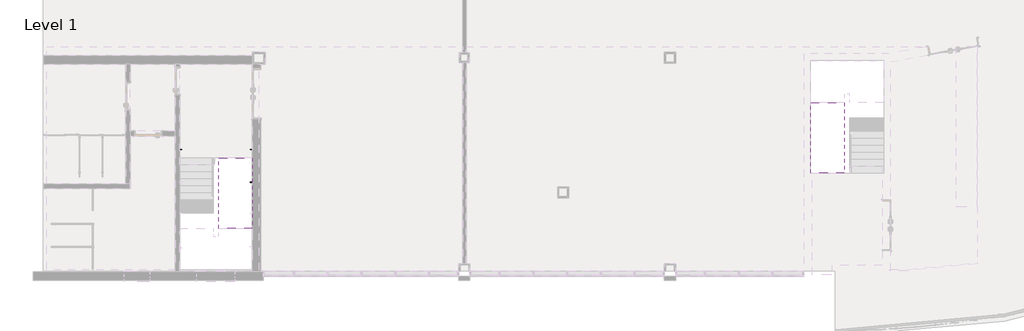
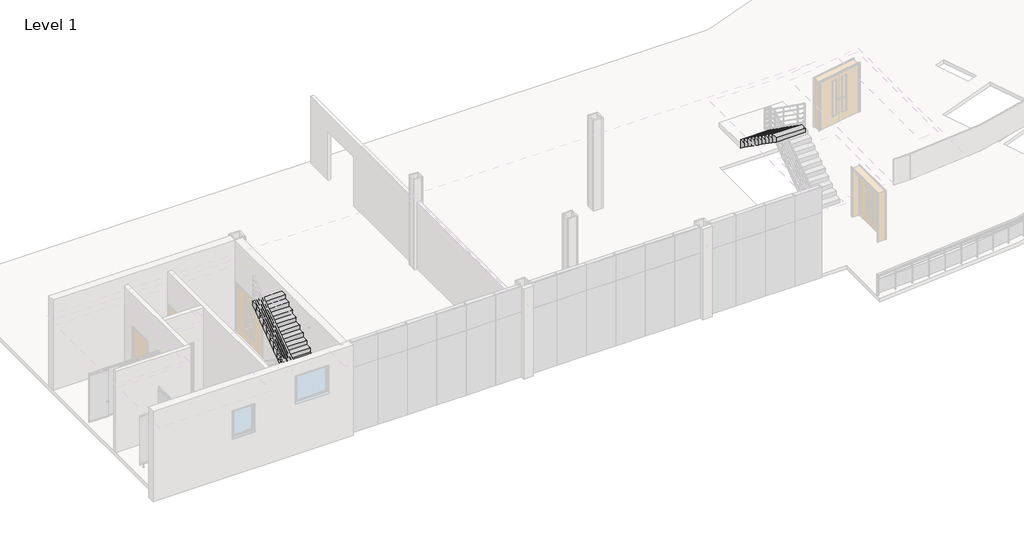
# One storey, part 10 of 12: 3 proxies, 2 stair flights.
"""IFC4 building model written with IfcOpenShell, lengths in millimetres."""

from ifc_helpers import new_model, si_unit, frame, origin, place, context, project, spatial, polyline, outline, extrude, faceted_brep, transform, mapped, element, save
from components import support_metal_circular_support_metal_circular_016e83f0

model = new_model("IFC4")

# Units and contexts
model_context = context("Model", 3, world=origin())
ifc_project = project(units=[si_unit("LENGTHUNIT", "METRE", prefix="MILLI")], contexts=[model_context])

# Site, building, storey
site = spatial("IfcSite", under=ifc_project)
building = spatial("IfcBuilding", under=site)
storey = spatial("IfcBuildingStorey", under=building, Name="Level 1", Elevation=3900.0)

# Proxies
placement = place(None, origin())
support_metal_circular_support_metal_circular_shape = support_metal_circular_support_metal_circular_016e83f0(model_context)
element("IfcBuildingElementProxy", 1, Name="Support - Metal - Circular : Support - Metal - Circular", ObjectType="Support - Metal - Circular : Support - Metal - Circular", at=placement, inside=storey, context=model_context, shape_type="MappedRepresentation", body=[
    mapped(support_metal_circular_support_metal_circular_shape, transform((5322.6000025, 4600.0, 4959.3919555), x_axis=(0.0, 1.0, 0.0), y_axis=(-1.0, 0.0, 0.0), z_axis=(0.0, 0.0, 1.0))),
])
element("IfcBuildingElementProxy", 2, Name="Support - Metal - Circular : Support - Metal - Circular", ObjectType="Support - Metal - Circular : Support - Metal - Circular", at=placement, inside=storey, context=model_context, shape_type="MappedRepresentation", body=[
    mapped(support_metal_circular_support_metal_circular_shape, transform((7761.8000023, 3437.7155261, 4170.6811467), x_axis=(0.0, -1.0, 0.0), y_axis=(1.0, 0.0, 0.0), z_axis=(0.0, 0.0, 1.0))),
])
element("IfcBuildingElementProxy", 3, Name="Support - Metal - Circular : Support - Metal - Circular", ObjectType="Support - Metal - Circular : Support - Metal - Circular", at=placement, inside=storey, context=model_context, shape_type="MappedRepresentation", body=[
    mapped(support_metal_circular_support_metal_circular_shape, transform((7761.8000023, 4600.0, 4782.1192282), x_axis=(0.0, -1.0, 0.0), y_axis=(1.0, 0.0, 0.0), z_axis=(0.0, 0.0, 1.0))),
])

# Stair flights
element("IfcStairFlight", 4, ObjectType="1mm_Tread-150mm_Depth", at=placement, inside=storey, context=model_context, shape_type="SolidModel", body=[
    faceted_brep([(6637.2000026, 2050.0, 6026.2727273), (6637.2000026, 1800.0, 6026.2727273), (7837.2000024, 1800.0, 6026.2727273), (7837.2000024, 2050.0, 6026.2727273), (6637.2000026, 2050.0, 5842.3890055), (6637.2000026, 1800.0, 5665.1162782), (6637.2000026, 1800.0, 5849.0), (7837.2000024, 1800.0, 5665.1162782), (7837.2000024, 1800.0, 5849.0), (7837.2000024, 2050.0, 5842.3890055), (6637.2000026, 2300.0, 6203.5454545), (6637.2000026, 2050.0, 6203.5454545), (7837.2000024, 2050.0, 6203.5454545), (7837.2000024, 2300.0, 6203.5454545), (6637.2000026, 2300.0, 6019.6617328), (7837.2000024, 2300.0, 6019.6617328), (6637.2000026, 2550.0, 6380.8181818), (6637.2000026, 2300.0, 6380.8181818), (7837.2000024, 2300.0, 6380.8181818), (7837.2000024, 2550.0, 6380.8181818), (6637.2000026, 2550.0, 6196.93446), (7837.2000024, 2550.0, 6196.93446), (6637.2000026, 2800.0, 6558.0909091), (6637.2000026, 2550.0, 6558.0909091), (7837.2000024, 2550.0, 6558.0909091), (7837.2000024, 2800.0, 6558.0909091), (6637.2000026, 2800.0, 6374.2071873), (7837.2000024, 2800.0, 6374.2071873), (6637.2000026, 3050.0, 6735.3636364), (6637.2000026, 2800.0, 6735.3636364), (7837.2000024, 2800.0, 6735.3636364), (7837.2000024, 3050.0, 6735.3636364), (6637.2000026, 3050.0, 6551.4799146), (7837.2000024, 3050.0, 6551.4799146), (6637.2000026, 3300.0, 6912.6363636), (6637.2000026, 3050.0, 6912.6363636), (7837.2000024, 3050.0, 6912.6363636), (7837.2000024, 3300.0, 6912.6363636), (6637.2000026, 3300.0, 6728.7526418), (7837.2000024, 3300.0, 6728.7526418), (6637.2000026, 3550.0, 7089.9090909), (6637.2000026, 3300.0, 7089.9090909), (7837.2000024, 3300.0, 7089.9090909), (7837.2000024, 3550.0, 7089.9090909), (6637.2000026, 3550.0, 6906.0253691), (7837.2000024, 3550.0, 6906.0253691), (6637.2000026, 3800.0, 7267.1818182), (6637.2000026, 3550.0, 7267.1818182), (7837.2000024, 3550.0, 7267.1818182), (7837.2000024, 3800.0, 7267.1818182), (6637.2000026, 3800.0, 7083.2980964), (7837.2000024, 3800.0, 7083.2980964), (6637.2000026, 4050.0, 7444.4545455), (6637.2000026, 3800.0, 7444.4545455), (7837.2000024, 3800.0, 7444.4545455), (7837.2000024, 4050.0, 7444.4545455), (6637.2000026, 4050.0, 7260.5708237), (7837.2000024, 4050.0, 7260.5708237), (6637.2000026, 4300.0, 7437.8435509), (7837.2000024, 4300.0, 7437.8435509), (6637.2000026, 4300.0, 7621.7272727), (6637.2000026, 4050.0, 7621.7272727), (7837.2000024, 4050.0, 7621.7272727), (7837.2000024, 4300.0, 7621.7272727)], [[[0, 1, 2, 3]], [[1, 0, 4, 5, 6]], [[2, 1, 6, 5, 7, 8]], [[3, 2, 8, 7, 9]], [[10, 11, 12, 13]], [[11, 10, 14, 4, 0]], [[12, 11, 0, 3]], [[13, 12, 3, 9, 15]], [[16, 17, 18, 19]], [[17, 16, 20, 14, 10]], [[18, 17, 10, 13]], [[19, 18, 13, 15, 21]], [[22, 23, 24, 25]], [[23, 22, 26, 20, 16]], [[24, 23, 16, 19]], [[25, 24, 19, 21, 27]], [[28, 29, 30, 31]], [[29, 28, 32, 26, 22]], [[30, 29, 22, 25]], [[31, 30, 25, 27, 33]], [[34, 35, 36, 37]], [[35, 34, 38, 32, 28]], [[36, 35, 28, 31]], [[37, 36, 31, 33, 39]], [[40, 41, 42, 43]], [[41, 40, 44, 38, 34]], [[42, 41, 34, 37]], [[43, 42, 37, 39, 45]], [[46, 47, 48, 49]], [[47, 46, 50, 44, 40]], [[48, 47, 40, 43]], [[49, 48, 43, 45, 51]], [[52, 53, 54, 55]], [[53, 52, 56, 50, 46]], [[54, 53, 46, 49]], [[55, 54, 49, 51, 57]], [[5, 4, 14, 20, 26, 32, 38, 44, 50, 56, 58, 59, 57, 51, 45, 39, 33, 27, 21, 15, 9, 7]], [[60, 61, 62, 63]], [[61, 60, 58, 56, 52]], [[62, 61, 52, 55]], [[63, 62, 55, 57, 59]], [[60, 63, 59, 58]]]),
    extrude(outline(polyline([(6637.2000026, 2050.0), (7837.2000024, 2050.0), (7837.2000024, 1800.0), (6637.2000026, 1800.0), (6637.2000026, 2050.0)])), frame((0.0, 0.0, 6026.2727273), z_axis=(0.0, 0.0, 1.0), x_axis=(1.0, 0.0, 0.0)), (0.0, 0.0, 1.0), 1.0),
    extrude(outline(polyline([(6637.2000026, 2300.0), (7837.2000024, 2300.0), (7837.2000024, 2050.0), (6637.2000026, 2050.0), (6637.2000026, 2300.0)])), frame((0.0, 0.0, 6203.5454545), z_axis=(0.0, 0.0, 1.0), x_axis=(1.0, 0.0, 0.0)), (0.0, 0.0, 1.0), 1.0),
    extrude(outline(polyline([(6637.2000026, 2550.0), (7837.2000024, 2550.0), (7837.2000024, 2300.0), (6637.2000026, 2300.0), (6637.2000026, 2550.0)])), frame((0.0, 0.0, 6380.8181818), z_axis=(0.0, 0.0, 1.0), x_axis=(1.0, 0.0, 0.0)), (0.0, 0.0, 1.0), 1.0),
    extrude(outline(polyline([(6637.2000026, 2800.0), (7837.2000024, 2800.0), (7837.2000024, 2550.0), (6637.2000026, 2550.0), (6637.2000026, 2800.0)])), frame((0.0, 0.0, 6558.0909091), z_axis=(0.0, 0.0, 1.0), x_axis=(1.0, 0.0, 0.0)), (0.0, 0.0, 1.0), 1.0),
    extrude(outline(polyline([(6637.2000026, 3050.0), (7837.2000024, 3050.0), (7837.2000024, 2800.0), (6637.2000026, 2800.0), (6637.2000026, 3050.0)])), frame((0.0, 0.0, 6735.3636364), z_axis=(0.0, 0.0, 1.0), x_axis=(1.0, 0.0, 0.0)), (0.0, 0.0, 1.0), 1.0),
    extrude(outline(polyline([(6637.2000026, 3300.0), (7837.2000024, 3300.0), (7837.2000024, 3050.0), (6637.2000026, 3050.0), (6637.2000026, 3300.0)])), frame((0.0, 0.0, 6912.6363636), z_axis=(0.0, 0.0, 1.0), x_axis=(1.0, 0.0, 0.0)), (0.0, 0.0, 1.0), 1.0),
    extrude(outline(polyline([(6637.2000026, 3550.0), (7837.2000024, 3550.0), (7837.2000024, 3300.0), (6637.2000026, 3300.0), (6637.2000026, 3550.0)])), frame((0.0, 0.0, 7089.9090909), z_axis=(0.0, 0.0, 1.0), x_axis=(1.0, 0.0, 0.0)), (0.0, 0.0, 1.0), 1.0),
    extrude(outline(polyline([(6637.2000026, 3800.0), (7837.2000024, 3800.0), (7837.2000024, 3550.0), (6637.2000026, 3550.0), (6637.2000026, 3800.0)])), frame((0.0, 0.0, 7267.1818182), z_axis=(0.0, 0.0, 1.0), x_axis=(1.0, 0.0, 0.0)), (0.0, 0.0, 1.0), 1.0),
    extrude(outline(polyline([(6637.2000026, 4050.0), (7837.2000024, 4050.0), (7837.2000024, 3800.0), (6637.2000026, 3800.0), (6637.2000026, 4050.0)])), frame((0.0, 0.0, 7444.4545455), z_axis=(0.0, 0.0, 1.0), x_axis=(1.0, 0.0, 0.0)), (0.0, 0.0, 1.0), 1.0),
    extrude(outline(polyline([(6637.2000026, 4300.0), (7837.2000024, 4300.0), (7837.2000024, 4050.0), (6637.2000026, 4050.0), (6637.2000026, 4300.0)])), frame((0.0, 0.0, 7621.7272727), z_axis=(0.0, 0.0, 1.0), x_axis=(1.0, 0.0, 0.0)), (0.0, 0.0, 1.0), 1.0),
])
element("IfcStairFlight", 5, ObjectType="1mm_Tread-150mm_Depth", at=placement, inside=storey, context=model_context, shape_type="SolidModel", body=[
    faceted_brep([(28862.2000029, 6013.2000006, 6026.2727273), (28862.2000029, 6263.2000006, 6026.2727273), (27662.2000031, 6263.2000006, 6026.2727273), (27662.2000031, 6013.2000006, 6026.2727273), (28862.2000029, 6013.2000006, 5842.3890055), (28862.2000029, 6263.2000006, 5665.1162782), (28862.2000029, 6263.2000006, 5849.0), (27662.2000031, 6263.2000006, 5665.1162782), (27662.2000031, 6263.2000006, 5849.0), (27662.2000031, 6013.2000006, 5842.3890055), (28862.2000029, 5763.2000006, 6203.5454545), (28862.2000029, 6013.2000006, 6203.5454545), (27662.2000031, 6013.2000006, 6203.5454545), (27662.2000031, 5763.2000006, 6203.5454545), (28862.2000029, 5763.2000006, 6019.6617328), (27662.2000031, 5763.2000006, 6019.6617328), (28862.2000029, 5513.2000006, 6380.8181818), (28862.2000029, 5763.2000006, 6380.8181818), (27662.2000031, 5763.2000006, 6380.8181818), (27662.2000031, 5513.2000006, 6380.8181818), (28862.2000029, 5513.2000006, 6196.93446), (27662.2000031, 5513.2000006, 6196.93446), (28862.2000029, 5263.2000006, 6558.0909091), (28862.2000029, 5513.2000006, 6558.0909091), (27662.2000031, 5513.2000006, 6558.0909091), (27662.2000031, 5263.2000006, 6558.0909091), (28862.2000029, 5263.2000006, 6374.2071873), (27662.2000031, 5263.2000006, 6374.2071873), (28862.2000029, 5013.2000006, 6735.3636364), (28862.2000029, 5263.2000006, 6735.3636364), (27662.2000031, 5263.2000006, 6735.3636364), (27662.2000031, 5013.2000006, 6735.3636364), (28862.2000029, 5013.2000006, 6551.4799146), (27662.2000031, 5013.2000006, 6551.4799146), (28862.2000029, 4763.2000006, 6912.6363636), (28862.2000029, 5013.2000006, 6912.6363636), (27662.2000031, 5013.2000006, 6912.6363636), (27662.2000031, 4763.2000006, 6912.6363636), (28862.2000029, 4763.2000006, 6728.7526418), (27662.2000031, 4763.2000006, 6728.7526418), (28862.2000029, 4513.2000006, 7089.9090909), (28862.2000029, 4763.2000006, 7089.9090909), (27662.2000031, 4763.2000006, 7089.9090909), (27662.2000031, 4513.2000006, 7089.9090909), (28862.2000029, 4513.2000006, 6906.0253691), (27662.2000031, 4513.2000006, 6906.0253691), (28862.2000029, 4263.2000006, 7267.1818182), (28862.2000029, 4513.2000006, 7267.1818182), (27662.2000031, 4513.2000006, 7267.1818182), (27662.2000031, 4263.2000006, 7267.1818182), (28862.2000029, 4263.2000006, 7083.2980964), (27662.2000031, 4263.2000006, 7083.2980964), (28862.2000029, 4013.2000006, 7444.4545455), (28862.2000029, 4263.2000006, 7444.4545455), (27662.2000031, 4263.2000006, 7444.4545455), (27662.2000031, 4013.2000006, 7444.4545455), (28862.2000029, 4013.2000006, 7260.5708237), (27662.2000031, 4013.2000006, 7260.5708237), (28862.2000029, 3763.2000006, 7437.8435509), (27662.2000031, 3763.2000006, 7437.8435509), (28862.2000029, 3763.2000006, 7621.7272727), (28862.2000029, 4013.2000006, 7621.7272727), (27662.2000031, 4013.2000006, 7621.7272727), (27662.2000031, 3763.2000006, 7621.7272727)], [[[0, 1, 2, 3]], [[1, 0, 4, 5, 6]], [[2, 1, 6, 5, 7, 8]], [[3, 2, 8, 7, 9]], [[10, 11, 12, 13]], [[11, 10, 14, 4, 0]], [[12, 11, 0, 3]], [[13, 12, 3, 9, 15]], [[16, 17, 18, 19]], [[17, 16, 20, 14, 10]], [[18, 17, 10, 13]], [[19, 18, 13, 15, 21]], [[22, 23, 24, 25]], [[23, 22, 26, 20, 16]], [[24, 23, 16, 19]], [[25, 24, 19, 21, 27]], [[28, 29, 30, 31]], [[29, 28, 32, 26, 22]], [[30, 29, 22, 25]], [[31, 30, 25, 27, 33]], [[34, 35, 36, 37]], [[35, 34, 38, 32, 28]], [[36, 35, 28, 31]], [[37, 36, 31, 33, 39]], [[40, 41, 42, 43]], [[41, 40, 44, 38, 34]], [[42, 41, 34, 37]], [[43, 42, 37, 39, 45]], [[46, 47, 48, 49]], [[47, 46, 50, 44, 40]], [[48, 47, 40, 43]], [[49, 48, 43, 45, 51]], [[52, 53, 54, 55]], [[53, 52, 56, 50, 46]], [[54, 53, 46, 49]], [[55, 54, 49, 51, 57]], [[5, 4, 14, 20, 26, 32, 38, 44, 50, 56, 58, 59, 57, 51, 45, 39, 33, 27, 21, 15, 9, 7]], [[60, 61, 62, 63]], [[61, 60, 58, 56, 52]], [[62, 61, 52, 55]], [[63, 62, 55, 57, 59]], [[60, 63, 59, 58]]]),
    extrude(outline(polyline([(28862.2000029, 6013.2000006), (27662.2000031, 6013.2000006), (27662.2000031, 6263.2000006), (28862.2000029, 6263.2000006), (28862.2000029, 6013.2000006)])), frame((0.0, 0.0, 6026.2727273), z_axis=(0.0, 0.0, 1.0), x_axis=(1.0, 0.0, 0.0)), (0.0, 0.0, 1.0), 1.0),
    extrude(outline(polyline([(28862.2000029, 5763.2000006), (27662.2000031, 5763.2000006), (27662.2000031, 6013.2000006), (28862.2000029, 6013.2000006), (28862.2000029, 5763.2000006)])), frame((0.0, 0.0, 6203.5454545), z_axis=(0.0, 0.0, 1.0), x_axis=(1.0, 0.0, 0.0)), (0.0, 0.0, 1.0), 1.0),
    extrude(outline(polyline([(28862.2000029, 5513.2000006), (27662.2000031, 5513.2000006), (27662.2000031, 5763.2000006), (28862.2000029, 5763.2000006), (28862.2000029, 5513.2000006)])), frame((0.0, 0.0, 6380.8181818), z_axis=(0.0, 0.0, 1.0), x_axis=(1.0, 0.0, 0.0)), (0.0, 0.0, 1.0), 1.0),
    extrude(outline(polyline([(28862.2000029, 5263.2000006), (27662.2000031, 5263.2000006), (27662.2000031, 5513.2000006), (28862.2000029, 5513.2000006), (28862.2000029, 5263.2000006)])), frame((0.0, 0.0, 6558.0909091), z_axis=(0.0, 0.0, 1.0), x_axis=(1.0, 0.0, 0.0)), (0.0, 0.0, 1.0), 1.0),
    extrude(outline(polyline([(28862.2000029, 5013.2000006), (27662.2000031, 5013.2000006), (27662.2000031, 5263.2000006), (28862.2000029, 5263.2000006), (28862.2000029, 5013.2000006)])), frame((0.0, 0.0, 6735.3636364), z_axis=(0.0, 0.0, 1.0), x_axis=(1.0, 0.0, 0.0)), (0.0, 0.0, 1.0), 1.0),
    extrude(outline(polyline([(28862.2000029, 4763.2000006), (27662.2000031, 4763.2000006), (27662.2000031, 5013.2000006), (28862.2000029, 5013.2000006), (28862.2000029, 4763.2000006)])), frame((0.0, 0.0, 6912.6363636), z_axis=(0.0, 0.0, 1.0), x_axis=(1.0, 0.0, 0.0)), (0.0, 0.0, 1.0), 1.0),
    extrude(outline(polyline([(28862.2000029, 4513.2000006), (27662.2000031, 4513.2000006), (27662.2000031, 4763.2000006), (28862.2000029, 4763.2000006), (28862.2000029, 4513.2000006)])), frame((0.0, 0.0, 7089.9090909), z_axis=(0.0, 0.0, 1.0), x_axis=(1.0, 0.0, 0.0)), (0.0, 0.0, 1.0), 1.0),
    extrude(outline(polyline([(28862.2000029, 4263.2000006), (27662.2000031, 4263.2000006), (27662.2000031, 4513.2000006), (28862.2000029, 4513.2000006), (28862.2000029, 4263.2000006)])), frame((0.0, 0.0, 7267.1818182), z_axis=(0.0, 0.0, 1.0), x_axis=(1.0, 0.0, 0.0)), (0.0, 0.0, 1.0), 1.0),
    extrude(outline(polyline([(28862.2000029, 4013.2000006), (27662.2000031, 4013.2000006), (27662.2000031, 4263.2000006), (28862.2000029, 4263.2000006), (28862.2000029, 4013.2000006)])), frame((0.0, 0.0, 7444.4545455), z_axis=(0.0, 0.0, 1.0), x_axis=(1.0, 0.0, 0.0)), (0.0, 0.0, 1.0), 1.0),
    extrude(outline(polyline([(28862.2000029, 3763.2000006), (27662.2000031, 3763.2000006), (27662.2000031, 4013.2000006), (28862.2000029, 4013.2000006), (28862.2000029, 3763.2000006)])), frame((0.0, 0.0, 7621.7272727), z_axis=(0.0, 0.0, 1.0), x_axis=(1.0, 0.0, 0.0)), (0.0, 0.0, 1.0), 1.0),
])

save(model, "model.ifc")
